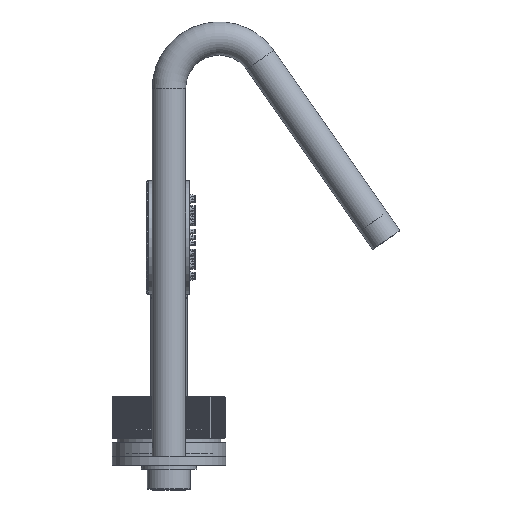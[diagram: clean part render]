
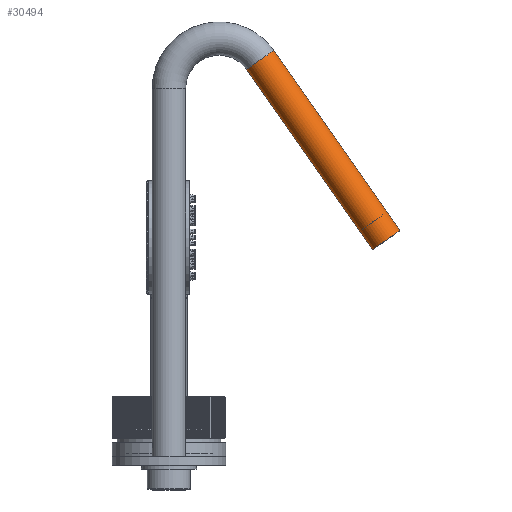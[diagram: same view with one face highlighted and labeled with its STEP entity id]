
A CAD part, front view. The second image highlights one B-rep face of the part: STEP entity #30494.
In plain terms, the highlighted cylindrical face has radius 10 mm (diameter 20 mm), a full revolution.
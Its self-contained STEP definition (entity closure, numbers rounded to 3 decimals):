
#3655=CYLINDRICAL_SURFACE('',#32966,10.);
#7998=ORIENTED_EDGE('',*,*,#12160,.T.);
#7999=ORIENTED_EDGE('',*,*,#12161,.F.);
#12160=EDGE_CURVE('',#14360,#14360,#15910,.F.);
#12161=EDGE_CURVE('',#14361,#14361,#15911,.F.);
#14360=VERTEX_POINT('',#47513);
#14361=VERTEX_POINT('',#47515);
#15910=CIRCLE('',#32967,10.);
#15911=CIRCLE('',#32968,10.);
#17471=EDGE_LOOP('',(#7998));
#17472=EDGE_LOOP('',(#7999));
#19682=FACE_BOUND('',#17471,.T.);
#19683=FACE_BOUND('',#17472,.T.);
#30494=ADVANCED_FACE('',(#19682,#19683),#3655,.T.);
#32966=AXIS2_PLACEMENT_3D('',#47511,#38244,#38245);
#32967=AXIS2_PLACEMENT_3D('',#47512,#38246,#38247);
#32968=AXIS2_PLACEMENT_3D('',#47514,#38248,#38249);
#38244=DIRECTION('',(0.574,0.,-0.819));
#38245=DIRECTION('',(-0.819,0.,-0.574));
#38246=DIRECTION('',(0.574,0.,-0.819));
#38247=DIRECTION('',(0.819,0.,0.574));
#38248=DIRECTION('',(0.574,0.,-0.819));
#38249=DIRECTION('',(0.819,0.,0.574));
#47511=CARTESIAN_POINT('',(54.575,0.,237.207));
#47512=CARTESIAN_POINT('',(130.,0.,129.489));
#47513=CARTESIAN_POINT('',(138.191,0.,135.225));
#47514=CARTESIAN_POINT('',(54.575,0.,237.207));
#47515=CARTESIAN_POINT('',(62.766,0.,242.943));
